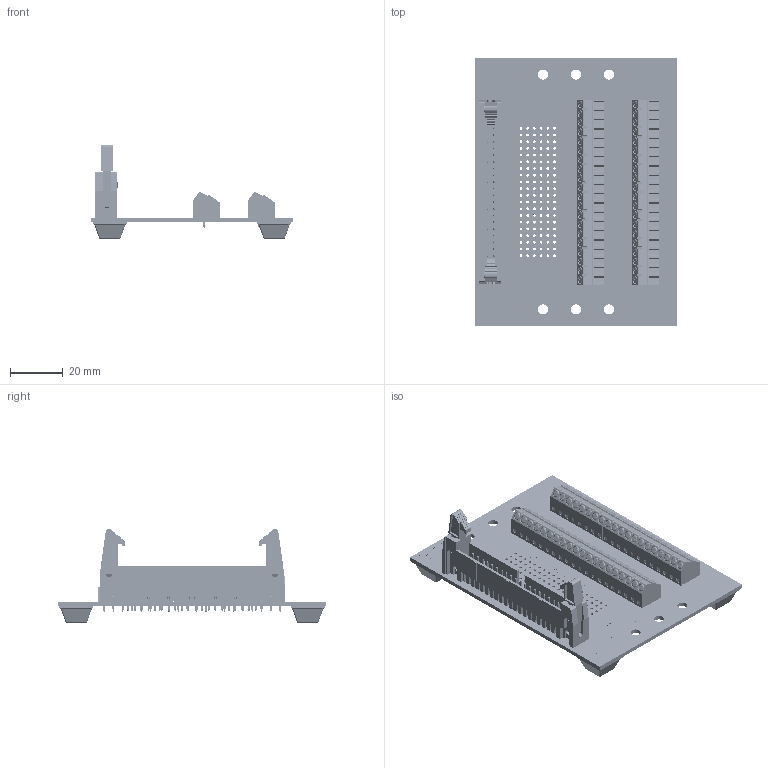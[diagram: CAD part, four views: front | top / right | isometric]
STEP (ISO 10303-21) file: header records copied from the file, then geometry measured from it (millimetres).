
FILE_DESCRIPTION (( 'STEP AP214' ), '1' );
FILE_NAME ('brk2x20-l-ft_rev_a.step', '2018-01-15T02:57:04', ( '' ), ( '' ), 'SwSTEP 2.0', 'SolidWorks 2017', '' );
FILE_SCHEMA (( 'AUTOMOTIVE_DESIGN' ));
Length unit declared in the file: inch
Products named in the file (6): BRK2X20 Board; Eurostyle PCB Terminal 3; Dual Row Header 2x20; Eurostyle PCB Terminal 2; brk2x20-l-ft_rev_a; Square Rubber Feet
Assembly tree (20 placements, depth 2):
  brk2x20-l-ft_rev_a
    BRK2X20 Board
    Dual Row Header 2x20
    Eurostyle PCB Terminal 2  x2
    Eurostyle PCB Terminal 3  x12
    Square Rubber Feet  x4
Bounding box: 76.2 x 101.6 x 35.54 mm (x, y, z)
Volume: 19608.1 mm3; surface area: 38462.2 mm2
Topology: 48 solids, 90 shells, 7759 faces, 20299 edges, 13204 vertices
Faces by surface type: plane 5478, bspline 1516, cylinder 705, cone 44, sphere 16
Full cylindrical faces by diameter (mm): 0.4 x28, 1.016 x159, 1.041 x40, 1.9 x40, 1.95 x40, 2.3 x4, 2.4 x2, 2.5 x4, 2.88 x40, 2.95 x40, 3.81 x6
Entity records: 237585 total; most frequent: CARTESIAN_POINT 100389, ORIENTED_EDGE 22938, DIRECTION 16320, EDGE_CURVE 11475, VECTOR 8160, LINE 8160, VERTEX_POINT 7589, EDGE_LOOP 5500
